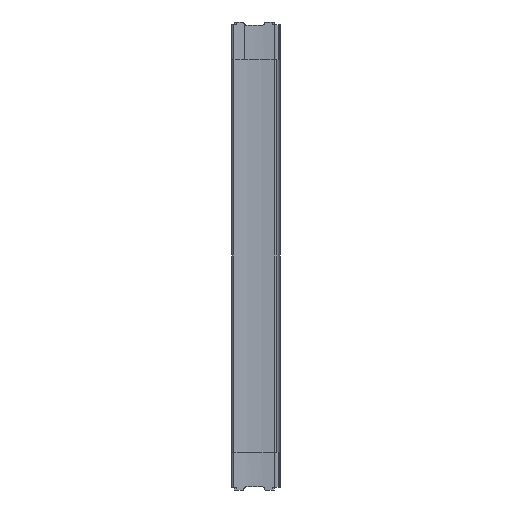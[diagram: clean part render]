
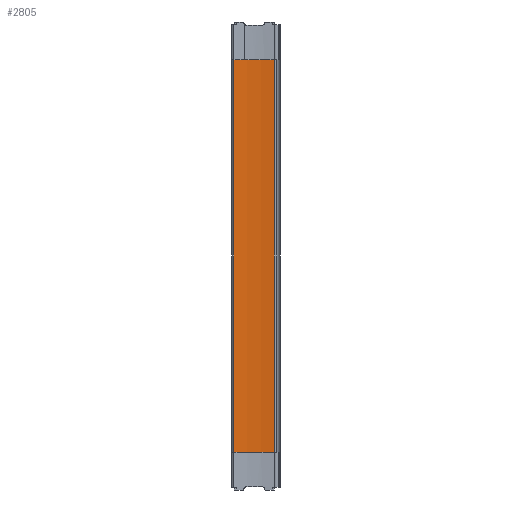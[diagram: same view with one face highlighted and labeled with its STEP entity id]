
A CAD part, left-side view. The second image highlights one B-rep face of the part: STEP entity #2805.
In plain terms, the highlighted cylindrical face has radius 250 mm (diameter 500 mm), a partial arc.
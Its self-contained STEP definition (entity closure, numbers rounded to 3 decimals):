
#576 = ORIENTED_EDGE ( 'NONE', *, *, #2758, .T. ) ;
#577 = ORIENTED_EDGE ( 'NONE', *, *, #1292, .F. ) ;
#578 = ORIENTED_EDGE ( 'NONE', *, *, #2770, .F. ) ;
#579 = ORIENTED_EDGE ( 'NONE', *, *, #2751, .F. ) ;
#734 = EDGE_LOOP ( 'NONE', ( #579, #578, #577, #576 ) ) ;
#1292 = EDGE_CURVE ( 'NONE', #3782, #3779, #3099, .T. ) ;
#1328 = CARTESIAN_POINT ( 'NONE',  ( -255.319, 48.963, 267.5 ) ) ;
#1335 = DIRECTION ( 'NONE',  ( 0., 0., -1. ) ) ;
#1336 = DIRECTION ( 'NONE',  ( 1., 0., 0. ) ) ;
#1445 = CARTESIAN_POINT ( 'NONE',  ( -255.319, 48.963, -267.5 ) ) ;
#1459 = DIRECTION ( 'NONE',  ( 0., 0., 1. ) ) ;
#1460 = DIRECTION ( 'NONE',  ( -1., 0., 0. ) ) ;
#1477 = CARTESIAN_POINT ( 'NONE',  ( -5.747, 63.571, 273.5 ) ) ;
#1478 = DIRECTION ( 'NONE',  ( 0., 0., -1. ) ) ;
#1503 = CARTESIAN_POINT ( 'NONE',  ( -8.643, 8.331, 273.5 ) ) ;
#1504 = DIRECTION ( 'NONE',  ( 0., 0., -1. ) ) ;
#1623 = DIRECTION ( 'NONE',  ( -1., 0., 0. ) ) ;
#1624 = DIRECTION ( 'NONE',  ( 0., 0., -1. ) ) ;
#1625 = CARTESIAN_POINT ( 'NONE',  ( -255.319, 48.963, 273.5 ) ) ;
#2009 = CARTESIAN_POINT ( 'NONE',  ( -5.747, 63.571, -267.5 ) ) ;
#2205 = CARTESIAN_POINT ( 'NONE',  ( -8.643, 8.331, 267.5 ) ) ;
#2206 = CARTESIAN_POINT ( 'NONE',  ( -8.643, 8.331, -267.5 ) ) ;
#2208 = CARTESIAN_POINT ( 'NONE',  ( -5.747, 63.571, 267.5 ) ) ;
#2569 = AXIS2_PLACEMENT_3D ( 'NONE', #1328, #1335, #1336 ) ;
#2593 = AXIS2_PLACEMENT_3D ( 'NONE', #1445, #1459, #1460 ) ;
#2623 = AXIS2_PLACEMENT_3D ( 'NONE', #1625, #1624, #1623 ) ;
#2751 = EDGE_CURVE ( 'NONE', #3780, #3597, #3019, .T. ) ;
#2758 = EDGE_CURVE ( 'NONE', #3782, #3597, #3020, .T. ) ;
#2770 = EDGE_CURVE ( 'NONE', #3779, #3780, #2993, .T. ) ;
#2805 = ADVANCED_FACE ( 'NONE', ( #2948 ), #2945, .F. ) ;
#2945 = CYLINDRICAL_SURFACE ( 'NONE', #2623, 250. ) ;
#2948 = FACE_OUTER_BOUND ( 'NONE', #734, .T. ) ;
#2992 = VECTOR ( 'NONE', #1504, 1000. ) ;
#2993 = LINE ( 'NONE', #1503, #2992 ) ;
#3014 = VECTOR ( 'NONE', #1478, 1000. ) ;
#3019 = CIRCLE ( 'NONE', #2593, 250. ) ;
#3020 = LINE ( 'NONE', #1477, #3014 ) ;
#3099 = CIRCLE ( 'NONE', #2569, 250. ) ;
#3597 = VERTEX_POINT ( 'NONE', #2009 ) ;
#3779 = VERTEX_POINT ( 'NONE', #2205 ) ;
#3780 = VERTEX_POINT ( 'NONE', #2206 ) ;
#3782 = VERTEX_POINT ( 'NONE', #2208 ) ;
